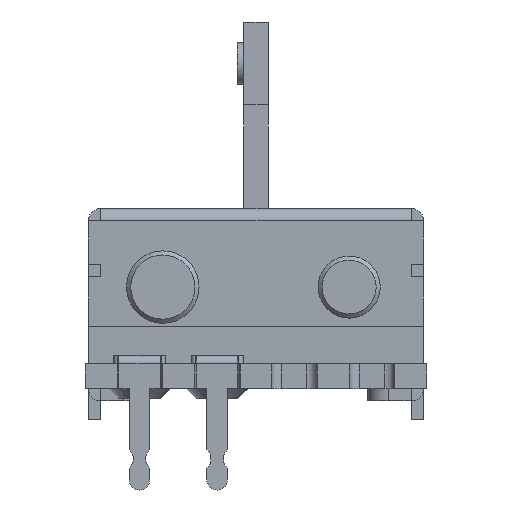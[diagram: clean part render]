
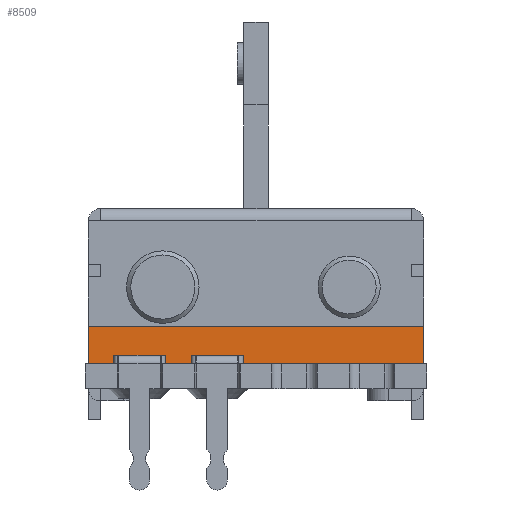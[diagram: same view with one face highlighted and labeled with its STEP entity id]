
A CAD part, left-side view. The second image highlights one B-rep face of the part: STEP entity #8509.
In plain terms, the highlighted planar face has unit normal (-1, 0, 0).
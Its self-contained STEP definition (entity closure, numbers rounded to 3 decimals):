
#156 = PLANE('',#157);
#157 = AXIS2_PLACEMENT_3D('',#158,#159,#160);
#158 = CARTESIAN_POINT('',(0.,8.1,-8.066));
#159 = DIRECTION('',(0.,1.,0.));
#160 = DIRECTION('',(0.,0.,1.));
#257 = PLANE('',#258);
#258 = AXIS2_PLACEMENT_3D('',#259,#260,#261);
#259 = CARTESIAN_POINT('',(0.,-8.1,-8.066));
#260 = DIRECTION('',(0.,-1.,0.));
#261 = DIRECTION('',(0.,0.,-1.));
#3009 = VERTEX_POINT('',#3010);
#3010 = CARTESIAN_POINT('',(-31.,8.1,-7.5));
#3023 = PLANE('',#3024);
#3024 = AXIS2_PLACEMENT_3D('',#3025,#3026,#3027);
#3025 = CARTESIAN_POINT('',(-36.5,-8.25,-7.5));
#3026 = DIRECTION('',(0.,0.,1.));
#3027 = DIRECTION('',(1.,0.,0.));
#3035 = EDGE_CURVE('',#3036,#3009,#3038,.T.);
#3036 = VERTEX_POINT('',#3037);
#3037 = CARTESIAN_POINT('',(-31.,8.1,-5.7));
#3038 = SURFACE_CURVE('',#3039,(#3043,#3049),.PCURVE_S1.);
#3039 = LINE('',#3040,#3041);
#3040 = CARTESIAN_POINT('',(-31.,8.1,-6.883));
#3041 = VECTOR('',#3042,1.);
#3042 = DIRECTION('',(0.,0.,-1.));
#3043 = PCURVE('',#156,#3044);
#3044 = DEFINITIONAL_REPRESENTATION('',(#3045),#3048);
#3045 = B_SPLINE_CURVE_WITH_KNOTS('',1,(#3046,#3047),.UNSPECIFIED.,.F.,
  .F.,(2,2),(-1.183,0.617),.PIECEWISE_BEZIER_KNOTS.);
#3046 = CARTESIAN_POINT('',(2.366,-31.));
#3047 = CARTESIAN_POINT('',(0.566,-31.));
#3048 = ( GEOMETRIC_REPRESENTATION_CONTEXT(2) 
PARAMETRIC_REPRESENTATION_CONTEXT() REPRESENTATION_CONTEXT('2D SPACE',''
  ) );
#3049 = PCURVE('',#3050,#3055);
#3050 = PLANE('',#3051);
#3051 = AXIS2_PLACEMENT_3D('',#3052,#3053,#3054);
#3052 = CARTESIAN_POINT('',(-31.,10.,-5.7));
#3053 = DIRECTION('',(1.,0.,0.));
#3054 = DIRECTION('',(0.,0.,-1.));
#3055 = DEFINITIONAL_REPRESENTATION('',(#3056),#3059);
#3056 = B_SPLINE_CURVE_WITH_KNOTS('',1,(#3057,#3058),.UNSPECIFIED.,.F.,
  .F.,(2,2),(-1.183,0.617),.PIECEWISE_BEZIER_KNOTS.);
#3057 = CARTESIAN_POINT('',(0.,-1.9));
#3058 = CARTESIAN_POINT('',(1.8,-1.9));
#3059 = ( GEOMETRIC_REPRESENTATION_CONTEXT(2) 
PARAMETRIC_REPRESENTATION_CONTEXT() REPRESENTATION_CONTEXT('2D SPACE',''
  ) );
#3076 = PLANE('',#3077);
#3077 = AXIS2_PLACEMENT_3D('',#3078,#3079,#3080);
#3078 = CARTESIAN_POINT('',(-40.,10.,-5.7));
#3079 = DIRECTION('',(0.,0.,1.));
#3080 = DIRECTION('',(1.,0.,0.));
#5571 = VERTEX_POINT('',#5572);
#5572 = CARTESIAN_POINT('',(-31.,-8.1,-5.7));
#5591 = EDGE_CURVE('',#5592,#5571,#5594,.T.);
#5592 = VERTEX_POINT('',#5593);
#5593 = CARTESIAN_POINT('',(-31.,-8.1,-7.5));
#5594 = SURFACE_CURVE('',#5595,(#5599,#5605),.PCURVE_S1.);
#5595 = LINE('',#5596,#5597);
#5596 = CARTESIAN_POINT('',(-31.,-8.1,-6.883));
#5597 = VECTOR('',#5598,1.);
#5598 = DIRECTION('',(0.,0.,1.));
#5599 = PCURVE('',#257,#5600);
#5600 = DEFINITIONAL_REPRESENTATION('',(#5601),#5604);
#5601 = B_SPLINE_CURVE_WITH_KNOTS('',1,(#5602,#5603),.UNSPECIFIED.,.F.,
  .F.,(2,2),(-0.617,1.183),.PIECEWISE_BEZIER_KNOTS.);
#5602 = CARTESIAN_POINT('',(-0.566,-31.));
#5603 = CARTESIAN_POINT('',(-2.366,-31.));
#5604 = ( GEOMETRIC_REPRESENTATION_CONTEXT(2) 
PARAMETRIC_REPRESENTATION_CONTEXT() REPRESENTATION_CONTEXT('2D SPACE',''
  ) );
#5605 = PCURVE('',#3050,#5606);
#5606 = DEFINITIONAL_REPRESENTATION('',(#5607),#5610);
#5607 = B_SPLINE_CURVE_WITH_KNOTS('',1,(#5608,#5609),.UNSPECIFIED.,.F.,
  .F.,(2,2),(-0.617,1.183),.PIECEWISE_BEZIER_KNOTS.);
#5608 = CARTESIAN_POINT('',(1.8,-18.1));
#5609 = CARTESIAN_POINT('',(0.,-18.1));
#5610 = ( GEOMETRIC_REPRESENTATION_CONTEXT(2) 
PARAMETRIC_REPRESENTATION_CONTEXT() REPRESENTATION_CONTEXT('2D SPACE',''
  ) );
#8486 = EDGE_CURVE('',#3036,#5571,#8487,.T.);
#8487 = SURFACE_CURVE('',#8488,(#8492,#8499),.PCURVE_S1.);
#8488 = LINE('',#8489,#8490);
#8489 = CARTESIAN_POINT('',(-31.,10.,-5.7));
#8490 = VECTOR('',#8491,1.);
#8491 = DIRECTION('',(0.,-1.,0.));
#8492 = PCURVE('',#3076,#8493);
#8493 = DEFINITIONAL_REPRESENTATION('',(#8494),#8498);
#8494 = LINE('',#8495,#8496);
#8495 = CARTESIAN_POINT('',(9.,0.));
#8496 = VECTOR('',#8497,1.);
#8497 = DIRECTION('',(0.,-1.));
#8498 = ( GEOMETRIC_REPRESENTATION_CONTEXT(2) 
PARAMETRIC_REPRESENTATION_CONTEXT() REPRESENTATION_CONTEXT('2D SPACE',''
  ) );
#8499 = PCURVE('',#3050,#8500);
#8500 = DEFINITIONAL_REPRESENTATION('',(#8501),#8505);
#8501 = LINE('',#8502,#8503);
#8502 = CARTESIAN_POINT('',(0.,0.));
#8503 = VECTOR('',#8504,1.);
#8504 = DIRECTION('',(0.,-1.));
#8505 = ( GEOMETRIC_REPRESENTATION_CONTEXT(2) 
PARAMETRIC_REPRESENTATION_CONTEXT() REPRESENTATION_CONTEXT('2D SPACE',''
  ) );
#8509 = ADVANCED_FACE('',(#8510),#3050,.F.);
#8510 = FACE_BOUND('',#8511,.F.);
#8511 = EDGE_LOOP('',(#8512,#8513,#8514,#8515,#8538,#8561));
#8512 = ORIENTED_EDGE('',*,*,#3035,.F.);
#8513 = ORIENTED_EDGE('',*,*,#8486,.T.);
#8514 = ORIENTED_EDGE('',*,*,#5591,.F.);
#8515 = ORIENTED_EDGE('',*,*,#8516,.F.);
#8516 = EDGE_CURVE('',#8517,#5592,#8519,.T.);
#8517 = VERTEX_POINT('',#8518);
#8518 = CARTESIAN_POINT('',(-31.,-7.5,-7.5));
#8519 = SURFACE_CURVE('',#8520,(#8524,#8531),.PCURVE_S1.);
#8520 = LINE('',#8521,#8522);
#8521 = CARTESIAN_POINT('',(-31.,10.,-7.5));
#8522 = VECTOR('',#8523,1.);
#8523 = DIRECTION('',(0.,-1.,0.));
#8524 = PCURVE('',#3050,#8525);
#8525 = DEFINITIONAL_REPRESENTATION('',(#8526),#8530);
#8526 = LINE('',#8527,#8528);
#8527 = CARTESIAN_POINT('',(1.8,0.));
#8528 = VECTOR('',#8529,1.);
#8529 = DIRECTION('',(0.,-1.));
#8530 = ( GEOMETRIC_REPRESENTATION_CONTEXT(2) 
PARAMETRIC_REPRESENTATION_CONTEXT() REPRESENTATION_CONTEXT('2D SPACE',''
  ) );
#8531 = PCURVE('',#3023,#8532);
#8532 = DEFINITIONAL_REPRESENTATION('',(#8533),#8537);
#8533 = LINE('',#8534,#8535);
#8534 = CARTESIAN_POINT('',(5.5,18.25));
#8535 = VECTOR('',#8536,1.);
#8536 = DIRECTION('',(0.,-1.));
#8537 = ( GEOMETRIC_REPRESENTATION_CONTEXT(2) 
PARAMETRIC_REPRESENTATION_CONTEXT() REPRESENTATION_CONTEXT('2D SPACE',''
  ) );
#8538 = ORIENTED_EDGE('',*,*,#8539,.F.);
#8539 = EDGE_CURVE('',#8540,#8517,#8542,.T.);
#8540 = VERTEX_POINT('',#8541);
#8541 = CARTESIAN_POINT('',(-31.,7.5,-7.5));
#8542 = SURFACE_CURVE('',#8543,(#8547,#8554),.PCURVE_S1.);
#8543 = LINE('',#8544,#8545);
#8544 = CARTESIAN_POINT('',(-31.,10.,-7.5));
#8545 = VECTOR('',#8546,1.);
#8546 = DIRECTION('',(0.,-1.,0.));
#8547 = PCURVE('',#3050,#8548);
#8548 = DEFINITIONAL_REPRESENTATION('',(#8549),#8553);
#8549 = LINE('',#8550,#8551);
#8550 = CARTESIAN_POINT('',(1.8,0.));
#8551 = VECTOR('',#8552,1.);
#8552 = DIRECTION('',(0.,-1.));
#8553 = ( GEOMETRIC_REPRESENTATION_CONTEXT(2) 
PARAMETRIC_REPRESENTATION_CONTEXT() REPRESENTATION_CONTEXT('2D SPACE',''
  ) );
#8554 = PCURVE('',#3023,#8555);
#8555 = DEFINITIONAL_REPRESENTATION('',(#8556),#8560);
#8556 = LINE('',#8557,#8558);
#8557 = CARTESIAN_POINT('',(5.5,18.25));
#8558 = VECTOR('',#8559,1.);
#8559 = DIRECTION('',(0.,-1.));
#8560 = ( GEOMETRIC_REPRESENTATION_CONTEXT(2) 
PARAMETRIC_REPRESENTATION_CONTEXT() REPRESENTATION_CONTEXT('2D SPACE',''
  ) );
#8561 = ORIENTED_EDGE('',*,*,#8562,.F.);
#8562 = EDGE_CURVE('',#3009,#8540,#8563,.T.);
#8563 = SURFACE_CURVE('',#8564,(#8568,#8575),.PCURVE_S1.);
#8564 = LINE('',#8565,#8566);
#8565 = CARTESIAN_POINT('',(-31.,10.,-7.5));
#8566 = VECTOR('',#8567,1.);
#8567 = DIRECTION('',(0.,-1.,0.));
#8568 = PCURVE('',#3050,#8569);
#8569 = DEFINITIONAL_REPRESENTATION('',(#8570),#8574);
#8570 = LINE('',#8571,#8572);
#8571 = CARTESIAN_POINT('',(1.8,0.));
#8572 = VECTOR('',#8573,1.);
#8573 = DIRECTION('',(0.,-1.));
#8574 = ( GEOMETRIC_REPRESENTATION_CONTEXT(2) 
PARAMETRIC_REPRESENTATION_CONTEXT() REPRESENTATION_CONTEXT('2D SPACE',''
  ) );
#8575 = PCURVE('',#3023,#8576);
#8576 = DEFINITIONAL_REPRESENTATION('',(#8577),#8581);
#8577 = LINE('',#8578,#8579);
#8578 = CARTESIAN_POINT('',(5.5,18.25));
#8579 = VECTOR('',#8580,1.);
#8580 = DIRECTION('',(0.,-1.));
#8581 = ( GEOMETRIC_REPRESENTATION_CONTEXT(2) 
PARAMETRIC_REPRESENTATION_CONTEXT() REPRESENTATION_CONTEXT('2D SPACE',''
  ) );
